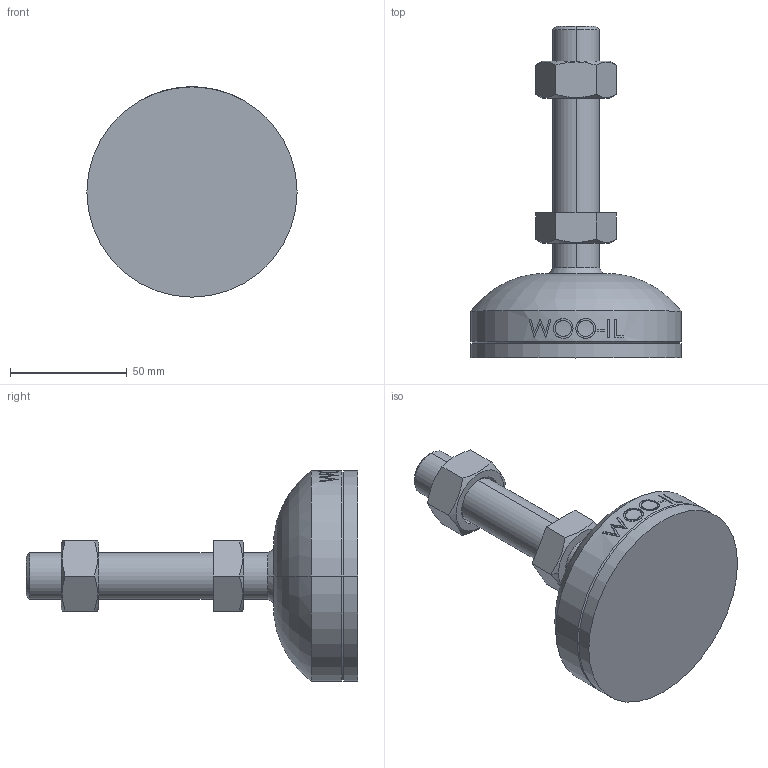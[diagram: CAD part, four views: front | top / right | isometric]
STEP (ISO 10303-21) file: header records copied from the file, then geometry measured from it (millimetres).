
FILE_DESCRIPTION (( 'STEP AP214' ), '1' );
FILE_NAME ('PL90-M20-80.step', '2021-03-05T05:05:52', ( '' ), ( '' ), 'SwSTEP 2.0', 'SolidWorks 2019', '' );
FILE_SCHEMA (( 'AUTOMOTIVE_DESIGN' ));
Length unit declared in the file: millimetre
Products named in the file (2): PL90-M20-80
Bounding box: 90 x 142 x 90 mm (x, y, z)
Volume: 239751.8 mm3; surface area: 43546.7 mm2
Topology: 3 solids, 3 shells, 100 faces, 237 edges, 154 vertices
Faces by surface type: plane 48, cylinder 18, bspline 16, cone 14, sphere 2, torus 2
Entity records: 4458 total; most frequent: CARTESIAN_POINT 2211, ORIENTED_EDGE 474, DIRECTION 407, EDGE_CURVE 237, AXIS2_PLACEMENT_3D 154, VERTEX_POINT 154, EDGE_LOOP 113, ADVANCED_FACE 100
